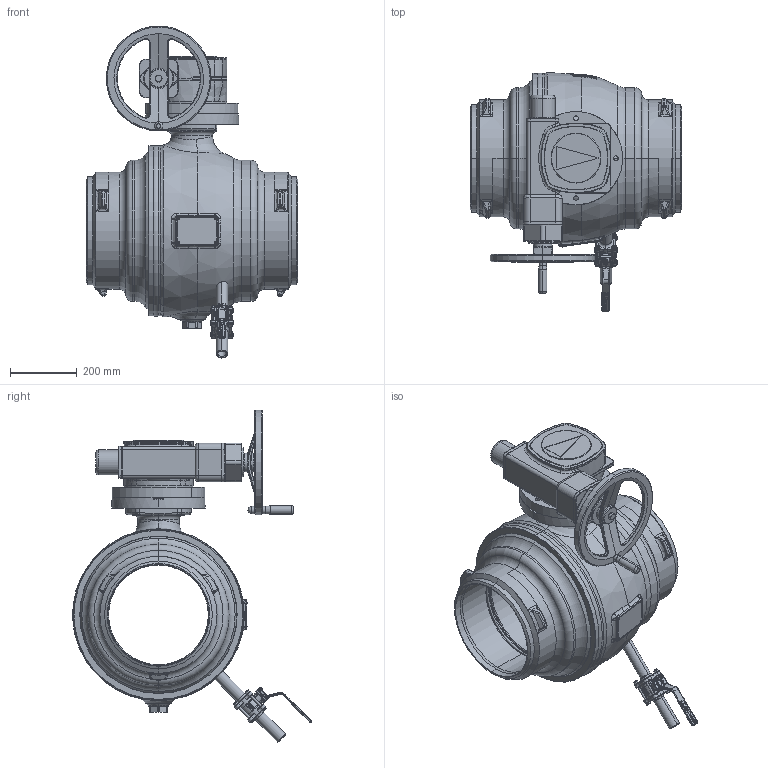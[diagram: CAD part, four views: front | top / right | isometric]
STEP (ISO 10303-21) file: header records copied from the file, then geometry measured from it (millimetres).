
FILE_DESCRIPTION((''),'2;1');
FILE_NAME('300_ASM','2017-01-16T',('schwaba'),('RAND'),'PRO/ENGINEER BY PARAMETRIC TECHNOLOGY CORPORATION, 2016100','PRO/ENGINEER BY PARAMETRIC TECHNOLOGY CORPORATION, 2016100','');
FILE_SCHEMA(('CONFIG_CONTROL_DESIGN'));
Length unit declared in the file: millimetre
Products named in the file (3): KHSVI_300_VVSN_FR_WE_ENTL_O_IT; GS100_F16_AHR315_ZWPL_DN300; 300_ASM
Assembly tree (2 placements, depth 2):
  300_ASM
    KHSVI_300_VVSN_FR_WE_ENTL_O_IT
    GS100_F16_AHR315_ZWPL_DN300
Bounding box: 635 x 717.57 x 997.59 mm (x, y, z)
Volume: 40746391.8 mm3; surface area: 4556316.3 mm2
Topology: 12 solids, 12 shells, 4625 faces, 11747 edges, 7287 vertices
Faces by surface type: plane 2385, cylinder 818, torus 472, bspline 463, cone 372, sphere 115
Entity records: 229740 total; most frequent: CARTESIAN_POINT 120572, ORIENTED_EDGE 23382, DIRECTION 22357, EDGE_CURVE 11691, AXIS2_PLACEMENT_3D 8371, VERTEX_POINT 7287, VECTOR 5615, LINE 5615
